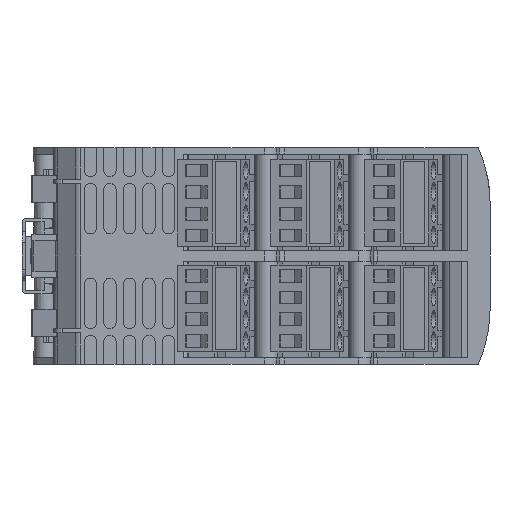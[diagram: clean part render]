
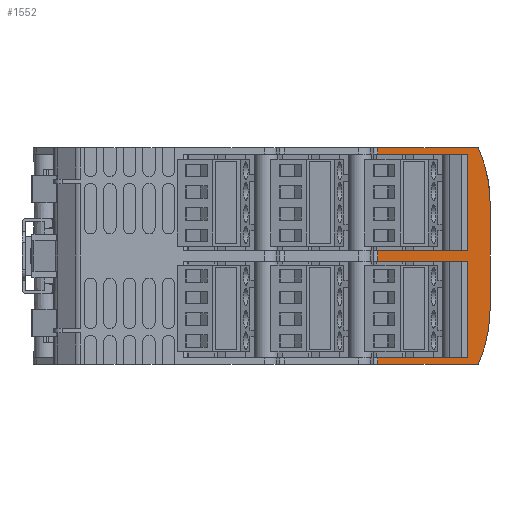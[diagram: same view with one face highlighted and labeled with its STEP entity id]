
A CAD part, front view. The second image highlights one B-rep face of the part: STEP entity #1552.
In plain terms, the highlighted planar face has unit normal (0, -1, 0).
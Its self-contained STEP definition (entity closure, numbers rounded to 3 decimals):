
#1552 = ADVANCED_FACE( '', ( #5701 ), #5702, .F. );
#5701 = FACE_OUTER_BOUND( '', #10962, .T. );
#5702 = PLANE( '', #10963 );
#10962 = EDGE_LOOP( '', ( #25242, #25243, #25244, #25245, #25246, #25247, #25248, #25249, #25250, #25251, #25252, #25253, #25254, #25255 ) );
#10963 = AXIS2_PLACEMENT_3D( '', #25256, #25257, #25258 );
#25242 = ORIENTED_EDGE( '', *, *, #38198, .F. );
#25243 = ORIENTED_EDGE( '', *, *, #38199, .T. );
#25244 = ORIENTED_EDGE( '', *, *, #38200, .T. );
#25245 = ORIENTED_EDGE( '', *, *, #34037, .T. );
#25246 = ORIENTED_EDGE( '', *, *, #34040, .F. );
#25247 = ORIENTED_EDGE( '', *, *, #38201, .T. );
#25248 = ORIENTED_EDGE( '', *, *, #38202, .F. );
#25249 = ORIENTED_EDGE( '', *, *, #38203, .T. );
#25250 = ORIENTED_EDGE( '', *, *, #38204, .T. );
#25251 = ORIENTED_EDGE( '', *, *, #35777, .F. );
#25252 = ORIENTED_EDGE( '', *, *, #38205, .F. );
#25253 = ORIENTED_EDGE( '', *, *, #38179, .T. );
#25254 = ORIENTED_EDGE( '', *, *, #38206, .T. );
#25255 = ORIENTED_EDGE( '', *, *, #34612, .T. );
#25256 = CARTESIAN_POINT( '', ( 79.469, -35.5, 25. ) );
#25257 = DIRECTION( '', ( 0., 1., 0. ) );
#25258 = DIRECTION( '', ( 0., 0., 1. ) );
#34037 = EDGE_CURVE( '', #40940, #40944, #40946, .F. );
#34040 = EDGE_CURVE( '', #40950, #40944, #40952, .T. );
#34612 = EDGE_CURVE( '', #41929, #41931, #41933, .T. );
#35777 = EDGE_CURVE( '', #43888, #43889, #43890, .T. );
#38179 = EDGE_CURVE( '', #47918, #47916, #47919, .T. );
#38198 = EDGE_CURVE( '', #47951, #41931, #47952, .T. );
#38199 = EDGE_CURVE( '', #47951, #47953, #47954, .T. );
#38200 = EDGE_CURVE( '', #47953, #40940, #47955, .T. );
#38201 = EDGE_CURVE( '', #40950, #47956, #47957, .F. );
#38202 = EDGE_CURVE( '', #47958, #47956, #47959, .T. );
#38203 = EDGE_CURVE( '', #47958, #47960, #47961, .T. );
#38204 = EDGE_CURVE( '', #47960, #43889, #47962, .T. );
#38205 = EDGE_CURVE( '', #47918, #43888, #47963, .T. );
#38206 = EDGE_CURVE( '', #47916, #41929, #47964, .T. );
#40940 = VERTEX_POINT( '', #52347 );
#40944 = VERTEX_POINT( '', #52352 );
#40946 = CIRCLE( '', #52355, 30. );
#40950 = VERTEX_POINT( '', #52360 );
#40952 = LINE( '', #52363, #52364 );
#41929 = VERTEX_POINT( '', #53896 );
#41931 = VERTEX_POINT( '', #53899 );
#41933 = LINE( '', #53902, #53903 );
#43888 = VERTEX_POINT( '', #56928 );
#43889 = VERTEX_POINT( '', #56929 );
#43890 = LINE( '', #56930, #56931 );
#47916 = VERTEX_POINT( '', #63280 );
#47918 = VERTEX_POINT( '', #63282 );
#47919 = LINE( '', #63283, #63284 );
#47951 = VERTEX_POINT( '', #63327 );
#47952 = LINE( '', #63328, #63329 );
#47953 = VERTEX_POINT( '', #63330 );
#47954 = LINE( '', #63331, #63332 );
#47955 = LINE( '', #63333, #63334 );
#47956 = VERTEX_POINT( '', #63335 );
#47957 = CIRCLE( '', #63336, 30. );
#47958 = VERTEX_POINT( '', #63337 );
#47959 = LINE( '', #63338, #63339 );
#47960 = VERTEX_POINT( '', #63340 );
#47961 = LINE( '', #63341, #63342 );
#47962 = LINE( '', #63343, #63344 );
#47963 = LINE( '', #63345, #63346 );
#47964 = LINE( '', #63347, #63348 );
#52347 = CARTESIAN_POINT( '', ( 102.602, -35.5, -25. ) );
#52352 = CARTESIAN_POINT( '', ( 105.33, -35.5, -12.5 ) );
#52355 = AXIS2_PLACEMENT_3D( '', #69129, #69130, #69131 );
#52360 = CARTESIAN_POINT( '', ( 105.33, -35.5, 12.5 ) );
#52363 = CARTESIAN_POINT( '', ( 105.33, -35.5, 25. ) );
#52364 = VECTOR( '', #69134, 1000. );
#53896 = CARTESIAN_POINT( '', ( 100.1, -35.5, -1.2 ) );
#53899 = CARTESIAN_POINT( '', ( 100.1, -35.5, -23.5 ) );
#53902 = CARTESIAN_POINT( '', ( 100.1, -35.5, 25. ) );
#53903 = VECTOR( '', #69734, 1000. );
#56928 = CARTESIAN_POINT( '', ( 100.1, -35.5, 1.2 ) );
#56929 = CARTESIAN_POINT( '', ( 100.1, -35.5, 23.5 ) );
#56930 = CARTESIAN_POINT( '', ( 100.1, -35.5, 25. ) );
#56931 = VECTOR( '', #71087, 1000. );
#63280 = CARTESIAN_POINT( '', ( 79.469, -35.5, -1.2 ) );
#63282 = CARTESIAN_POINT( '', ( 79.469, -35.5, 1.2 ) );
#63283 = CARTESIAN_POINT( '', ( 79.469, -35.5, 25. ) );
#63284 = VECTOR( '', #73902, 1000. );
#63327 = CARTESIAN_POINT( '', ( 79.469, -35.5, -23.5 ) );
#63328 = CARTESIAN_POINT( '', ( 79.469, -35.5, -23.5 ) );
#63329 = VECTOR( '', #73935, 1000. );
#63330 = CARTESIAN_POINT( '', ( 79.469, -35.5, -25. ) );
#63331 = CARTESIAN_POINT( '', ( 79.469, -35.5, 25. ) );
#63332 = VECTOR( '', #73936, 1000. );
#63333 = CARTESIAN_POINT( '', ( 79.469, -35.5, -25. ) );
#63334 = VECTOR( '', #73937, 1000. );
#63335 = CARTESIAN_POINT( '', ( 102.602, -35.5, 25. ) );
#63336 = AXIS2_PLACEMENT_3D( '', #73938, #73939, #73940 );
#63337 = CARTESIAN_POINT( '', ( 79.469, -35.5, 25. ) );
#63338 = CARTESIAN_POINT( '', ( 79.469, -35.5, 25. ) );
#63339 = VECTOR( '', #73941, 1000. );
#63340 = CARTESIAN_POINT( '', ( 79.469, -35.5, 23.5 ) );
#63341 = CARTESIAN_POINT( '', ( 79.469, -35.5, 25. ) );
#63342 = VECTOR( '', #73942, 1000. );
#63343 = CARTESIAN_POINT( '', ( 79.469, -35.5, 23.5 ) );
#63344 = VECTOR( '', #73943, 1000. );
#63345 = CARTESIAN_POINT( '', ( 79.469, -35.5, 1.2 ) );
#63346 = VECTOR( '', #73944, 1000. );
#63347 = CARTESIAN_POINT( '', ( 79.469, -35.5, -1.2 ) );
#63348 = VECTOR( '', #73945, 1000. );
#69129 = CARTESIAN_POINT( '', ( 75.33, -35.5, -12.5 ) );
#69130 = DIRECTION( '', ( 0., 1., 0. ) );
#69131 = DIRECTION( '', ( 0., 0., 1. ) );
#69134 = DIRECTION( '', ( 0., 0., -1. ) );
#69734 = DIRECTION( '', ( 0., 0., -1. ) );
#71087 = DIRECTION( '', ( 0., 0., 1. ) );
#73902 = DIRECTION( '', ( 0., 0., -1. ) );
#73935 = DIRECTION( '', ( 1., 0., 0. ) );
#73936 = DIRECTION( '', ( 0., 0., -1. ) );
#73937 = DIRECTION( '', ( 1., 0., 0. ) );
#73938 = CARTESIAN_POINT( '', ( 75.33, -35.5, 12.5 ) );
#73939 = DIRECTION( '', ( 0., 1., 0. ) );
#73940 = DIRECTION( '', ( 0., 0., 1. ) );
#73941 = DIRECTION( '', ( 1., 0., 0. ) );
#73942 = DIRECTION( '', ( 0., 0., -1. ) );
#73943 = DIRECTION( '', ( 1., 0., 0. ) );
#73944 = DIRECTION( '', ( 1., 0., 0. ) );
#73945 = DIRECTION( '', ( 1., 0., 0. ) );
